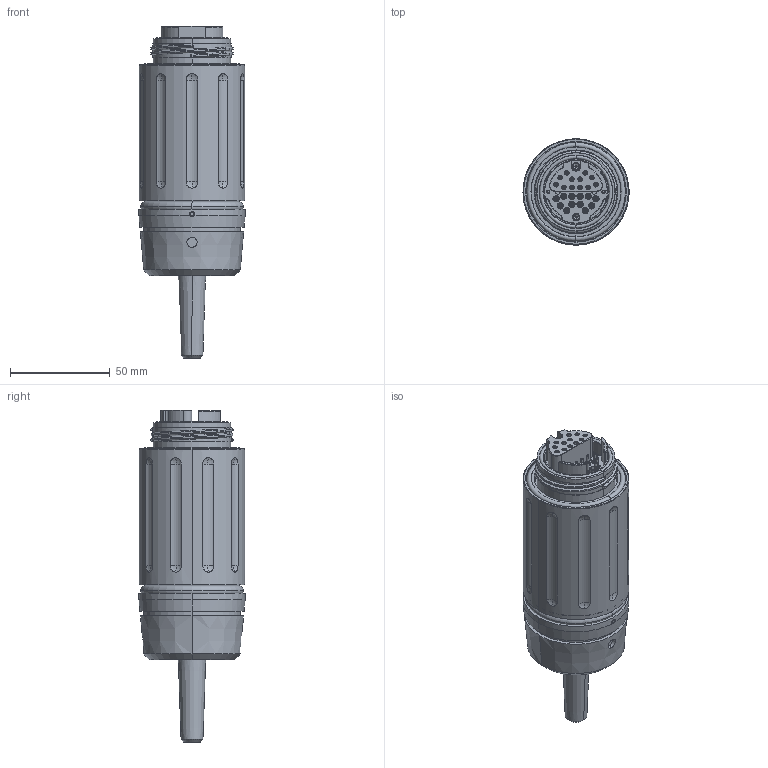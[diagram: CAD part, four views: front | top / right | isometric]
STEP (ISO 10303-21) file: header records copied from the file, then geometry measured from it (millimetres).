
FILE_DESCRIPTION (( 'STEP AP214' ), '1' );
FILE_NAME ('QFOCA3-PHHX-24X-X-SX.STEP', '2025-08-05T20:17:20', ( '' ), ( '' ), 'SwSTEP 2.0', 'SolidWorks 2024', '' );
FILE_SCHEMA (( 'AUTOMOTIVE_DESIGN' ));
Length unit declared in the file: inch
Products named in the file (1): QFOCA3-PHHX-24X-X-SX
Bounding box: 53.09 x 53.09 x 166.09 mm (x, y, z)
Volume: 238979 mm3; surface area: 41933.8 mm2
Topology: 4 solids, 17 shells, 1108 faces, 2508 edges, 1521 vertices
Faces by surface type: cylinder 392, cone 258, plane 215, torus 187, sphere 40, bspline 16
Entity records: 33356 total; most frequent: CARTESIAN_POINT 7894, DIRECTION 5840, ORIENTED_EDGE 5008, EDGE_CURVE 2504, AXIS2_PLACEMENT_3D 2481, VERTEX_POINT 1521, CIRCLE 1388, EDGE_LOOP 1231
